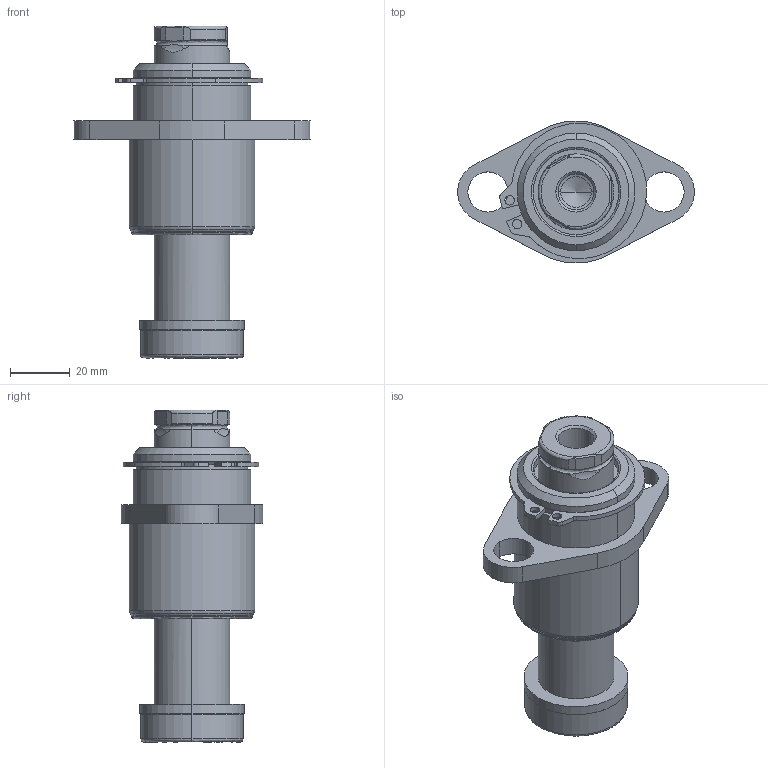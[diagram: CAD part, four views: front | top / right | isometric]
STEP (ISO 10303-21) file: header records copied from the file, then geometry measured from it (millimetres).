
FILE_DESCRIPTION (( 'STEP AP214' ), '1' );
FILE_NAME ('GK105-N2-1-BP-M-XXX.STEP', '2020-09-21T13:00:26', ( '' ), ( '' ), 'SwSTEP 2.0', 'SolidWorks 2017', '' );
FILE_SCHEMA (( 'AUTOMOTIVE_DESIGN' ));
Length unit declared in the file: inch
Products named in the file (7): GK105-M-XXX-GuidePin; GK105-DampeningWasher; RetainingRing; GK1.00-N2-1-BP-Base; GK105-N2-1-BP-M-XXX
Assembly tree (6 placements, depth 3):
  GK105-N2-1-BP-M-XXX
    GK1.00-N2-1-BP-Base
      GK1.00-N2-1-BP-Base
      RetainingRing
    GK105-M-XXX-GuidePin
      GK105-M-XXX-GuidePin
      GK105-DampeningWasher
Bounding box: 79.18 x 47.5 x 111.12 mm (x, y, z)
Volume: 109275.3 mm3; surface area: 31361.4 mm2
Topology: 4 solids, 4 shells, 146 faces, 354 edges, 225 vertices
Faces by surface type: cylinder 65, plane 36, bspline 33, cone 12
Entity records: 7482 total; most frequent: CARTESIAN_POINT 3798, ORIENTED_EDGE 704, DIRECTION 645, EDGE_CURVE 352, AXIS2_PLACEMENT_3D 260, VERTEX_POINT 225, EDGE_LOOP 169, ADVANCED_FACE 146
